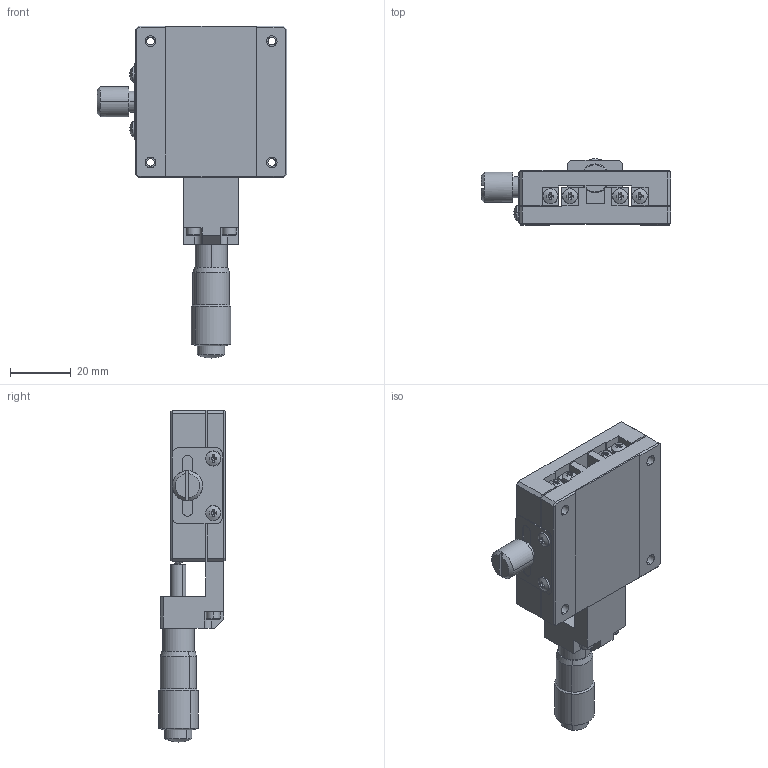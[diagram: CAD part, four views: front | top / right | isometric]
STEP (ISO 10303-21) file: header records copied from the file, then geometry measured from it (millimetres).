
FILE_DESCRIPTION (( 'STEP AP203' ), '1' );
FILE_NAME ('LX50-C.STEP', '2013-12-17T11:58:46', ( 'pengyu' ), ( '' ), 'SwSTEP 2.0', 'SolidWorks 2011', '' );
FILE_SCHEMA (( 'CONFIG_CONTROL_DESIGN' ));
Length unit declared in the file: millimetre
Products named in the file (4): L50C-2; L50C-1; LX50-C; MT13-1-1
Assembly tree (3 placements, depth 2):
  LX50-C
    L50C-2
    L50C-1
    MT13-1-1
Bounding box: 62.6 x 22.01 x 109.5 mm (x, y, z)
Volume: 48251 mm3; surface area: 24073.2 mm2
Topology: 3 solids, 4 shells, 592 faces, 1479 edges, 926 vertices
Faces by surface type: plane 349, cylinder 121, cone 92, bspline 28, torus 2
Entity records: 18515 total; most frequent: CARTESIAN_POINT 4119, ORIENTED_EDGE 2910, DIRECTION 2895, EDGE_CURVE 1455, AXIS2_PLACEMENT_3D 1054, VERTEX_POINT 926, LINE 787, VECTOR 787
